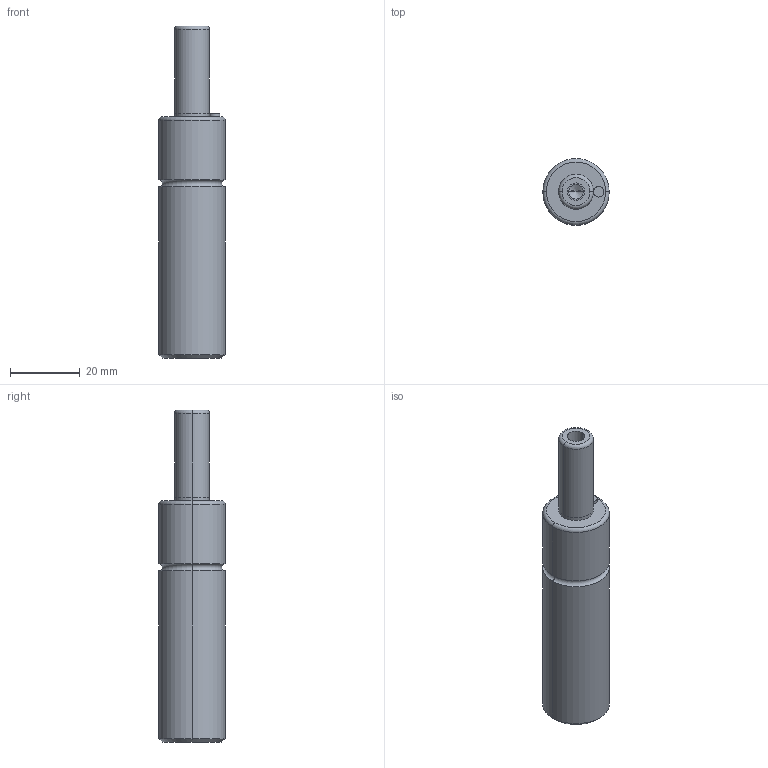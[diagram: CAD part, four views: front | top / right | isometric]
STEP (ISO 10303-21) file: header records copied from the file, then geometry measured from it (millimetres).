
FILE_DESCRIPTION(/* description */ (''),/* implementation_level */ '2;1');
FILE_NAME(/* name */ '3d_mgsa19-25_04548_r00.stp',/* time_stamp */ '2011-01-10T14:13:36+09:00',/* author */ ('MISUMI'),/* organization */ (''),/* preprocessor_version */ 'ST-DEVELOPER v11',/* originating_system */ 'UGS - NX 5.0',/* authorisation */ '');
FILE_SCHEMA (('CONFIG_CONTROL_DESIGN'));
Length unit declared in the file: millimetre
Products named in the file (1): 3d_mgsa19-25_04548_r00
Bounding box: 19 x 19 x 95 mm (x, y, z)
Volume: 21086.2 mm3; surface area: 5777.3 mm2
Topology: 1 solids, 1 shells, 36 faces, 74 edges, 42 vertices
Faces by surface type: cylinder 18, torus 6, cone 6, plane 6
Entity records: 1014 total; most frequent: DIRECTION 190, CARTESIAN_POINT 149, ORIENTED_EDGE 140, AXIS2_PLACEMENT_3D 83, EDGE_CURVE 70, CIRCLE 46, EDGE_LOOP 42, VERTEX_POINT 42
